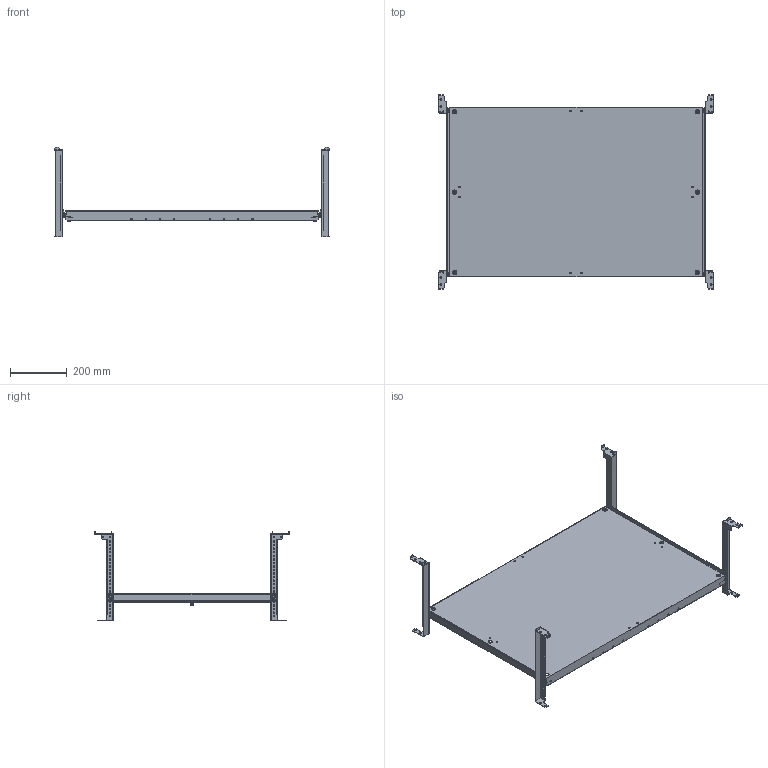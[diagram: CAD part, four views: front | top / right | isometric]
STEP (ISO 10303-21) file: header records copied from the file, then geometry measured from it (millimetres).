
FILE_DESCRIPTION (( 'STEP AP214' ), '1' );
FILE_NAME ('FO-00-MPU-060-100 Ïàíåëü ìîíòàæíàÿ óíèâåðñàëüíàÿ 600õ1000 ìì.STEP', '2025-07-16T08:59:02', ( '' ), ( '' ), 'SwSTEP 2.0', 'SolidWorks 2023', '' );
FILE_SCHEMA (( 'AUTOMOTIVE_DESIGN' ));
Length unit declared in the file: millimetre
Products named in the file (5): FO-00-MPU-060-100 Панель монтажная универсальная 600х1000 мм; Винты DIN 912 4xM6x20 600x1000; Панель монтажная универсальная 600х1000 мм; Траверса горизонтальная; Траверса горизонтальнаяD
Assembly tree (6 placements, depth 2):
  FO-00-MPU-060-100 Панель монтажная универсальная 600х1000 мм
    Панель монтажная универсальная 600х1000 мм
    Винты DIN 912 4xM6x20 600x1000
    Траверса горизонтальная  x2
    Траверса горизонтальнаяD  x2
Bounding box: 966 x 685 x 314.5 mm (x, y, z)
Volume: 1623616.4 mm3; surface area: 1647397.5 mm2
Topology: 9 solids, 15 shells, 1132 faces, 3092 edges, 2058 vertices
Faces by surface type: cylinder 508, plane 502, cone 82, bspline 40
Entity records: 33905 total; most frequent: CARTESIAN_POINT 10329, ORIENTED_EDGE 4852, DIRECTION 4850, EDGE_CURVE 2426, AXIS2_PLACEMENT_3D 1771, VERTEX_POINT 1614, LINE 1308, VECTOR 1308
